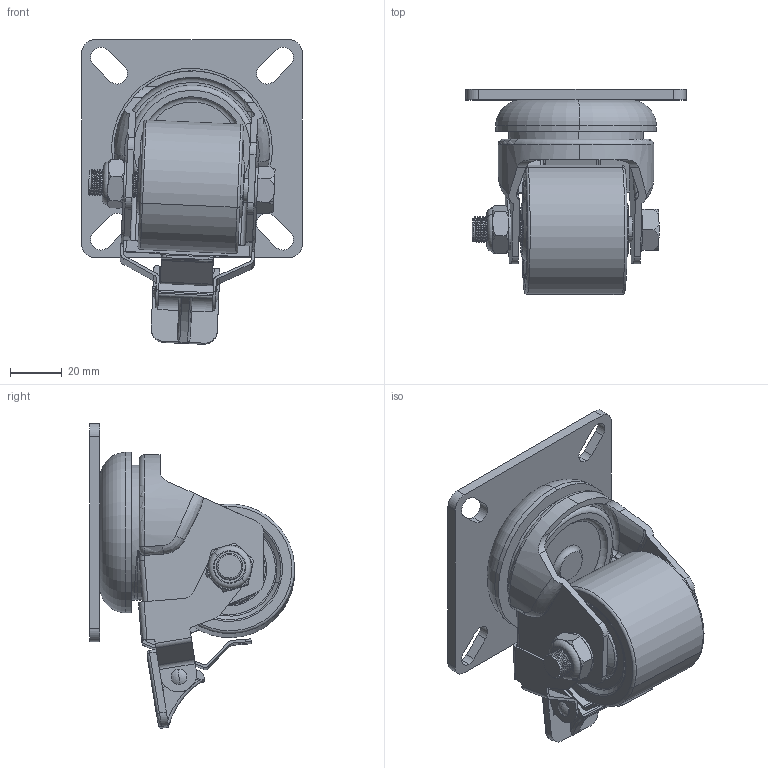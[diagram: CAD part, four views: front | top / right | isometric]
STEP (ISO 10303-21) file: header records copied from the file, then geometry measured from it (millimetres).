
FILE_DESCRIPTION (( 'STEP AP214' ), '1' );
FILE_NAME ('MXN50-P-TB.step', '2024-01-17T23:01:34', ( '' ), ( '' ), 'SwSTEP 2.0', 'SolidWorks 2022', '' );
FILE_SCHEMA (( 'AUTOMOTIVE_DESIGN' ));
Length unit declared in the file: millimetre
Products named in the file (8): MXN-TB-50; M10X65; 84X84 PLATE; M10-Nyloc; MXN50; MXN50-P-TB; MXN50-P; STEM 12mm
Assembly tree (7 placements, depth 2):
  MXN50-P-TB
    84X84 PLATE
    MXN50-P
    M10X65
    M10-Nyloc
    MXN50
    STEM 12mm
    MXN-TB-50
Bounding box: 85 x 78.95 x 117.43 mm (x, y, z)
Volume: 171264.4 mm3; surface area: 67822.1 mm2
Topology: 7 solids, 7 shells, 856 faces, 2283 edges, 1482 vertices
Faces by surface type: plane 407, cylinder 239, bspline 124, torus 45, cone 29, sphere 12
Entity records: 38758 total; most frequent: CARTESIAN_POINT 17110, ORIENTED_EDGE 4562, DIRECTION 3757, EDGE_CURVE 2281, VERTEX_POINT 1482, VECTOR 1339, LINE 1339, AXIS2_PLACEMENT_3D 1209
